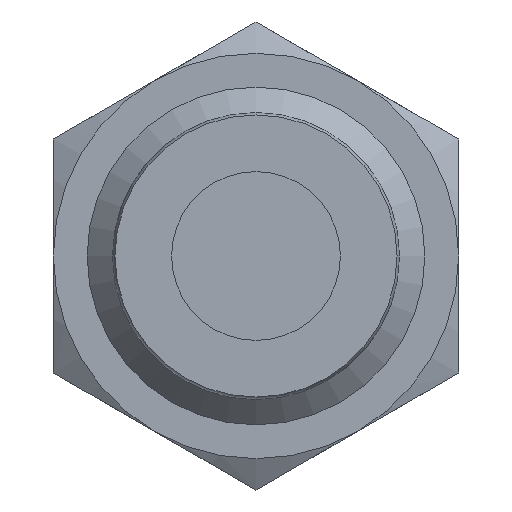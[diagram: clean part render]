
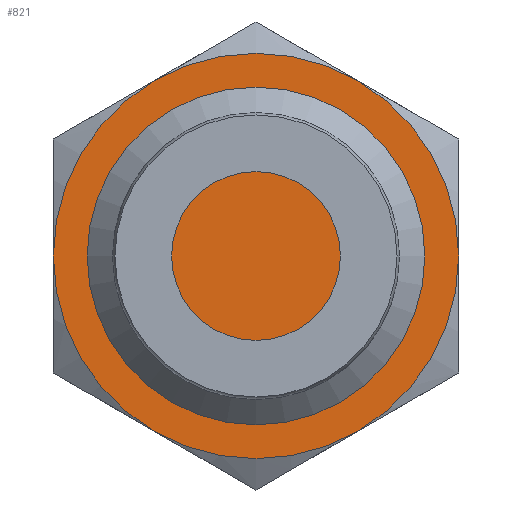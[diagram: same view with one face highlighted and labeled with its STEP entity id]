
A CAD part, front view. The second image highlights one B-rep face of the part: STEP entity #821.
In plain terms, the highlighted planar face has unit normal (0, -1, 0).
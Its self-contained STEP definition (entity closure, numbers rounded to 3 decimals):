
#135=PLANE($,#936);
#219=FACE_OUTER_BOUND($,#303,.T.);
#303=EDGE_LOOP($,(#732,#733,#734,#735,#736,#737));
#344=CIRCLE($,#918,12.);
#345=CIRCLE($,#920,12.);
#346=CIRCLE($,#922,12.);
#347=CIRCLE($,#924,12.);
#348=CIRCLE($,#926,12.);
#349=CIRCLE($,#928,12.);
#409=VERTEX_POINT($,#1430);
#410=VERTEX_POINT($,#1434);
#412=VERTEX_POINT($,#1441);
#414=VERTEX_POINT($,#1451);
#416=VERTEX_POINT($,#1464);
#418=VERTEX_POINT($,#1474);
#504=EDGE_CURVE($,#409,#410,#344,.T.);
#507=EDGE_CURVE($,#412,#409,#345,.T.);
#510=EDGE_CURVE($,#414,#412,#346,.T.);
#512=EDGE_CURVE($,#416,#414,#347,.T.);
#515=EDGE_CURVE($,#418,#416,#348,.T.);
#518=EDGE_CURVE($,#410,#418,#349,.T.);
#732=ORIENTED_EDGE($,*,*,#518,.T.);
#733=ORIENTED_EDGE($,*,*,#515,.T.);
#734=ORIENTED_EDGE($,*,*,#512,.T.);
#735=ORIENTED_EDGE($,*,*,#510,.T.);
#736=ORIENTED_EDGE($,*,*,#507,.T.);
#737=ORIENTED_EDGE($,*,*,#504,.T.);
#821=ADVANCED_FACE($,(#219),#135,.F.);
#918=AXIS2_PLACEMENT_3D($,#1438,#1123,#1124);
#920=AXIS2_PLACEMENT_3D($,#1448,#1127,#1128);
#922=AXIS2_PLACEMENT_3D($,#1458,#1131,#1132);
#924=AXIS2_PLACEMENT_3D($,#1465,#1135,#1136);
#926=AXIS2_PLACEMENT_3D($,#1475,#1139,#1140);
#928=AXIS2_PLACEMENT_3D($,#1484,#1143,#1144);
#936=AXIS2_PLACEMENT_3D($,#1501,#1165,#1166);
#1123=DIRECTION('center_axis',(0.,-1.,0.));
#1124=DIRECTION('ref_axis',(0.,0.,1.));
#1127=DIRECTION('center_axis',(0.,-1.,0.));
#1128=DIRECTION('ref_axis',(0.,0.,1.));
#1131=DIRECTION('center_axis',(0.,-1.,0.));
#1132=DIRECTION('ref_axis',(0.,0.,1.));
#1135=DIRECTION('center_axis',(0.,-1.,0.));
#1136=DIRECTION('ref_axis',(0.,0.,1.));
#1139=DIRECTION('center_axis',(0.,-1.,0.));
#1140=DIRECTION('ref_axis',(0.,0.,1.));
#1143=DIRECTION('center_axis',(0.,-1.,0.));
#1144=DIRECTION('ref_axis',(0.,0.,1.));
#1165=DIRECTION('center_axis',(0.,1.,0.));
#1166=DIRECTION('ref_axis',(0.,0.,1.));
#1430=CARTESIAN_POINT('',(6.,-26.,-10.392));
#1434=CARTESIAN_POINT('',(12.,-26.,0.));
#1438=CARTESIAN_POINT('Origin',(0.,-26.,0.));
#1441=CARTESIAN_POINT('',(-6.,-26.,-10.392));
#1448=CARTESIAN_POINT('Origin',(0.,-26.,0.));
#1451=CARTESIAN_POINT('',(-12.,-26.,0.));
#1458=CARTESIAN_POINT('Origin',(0.,-26.,0.));
#1464=CARTESIAN_POINT('',(-6.,-26.,10.392));
#1465=CARTESIAN_POINT('Origin',(0.,-26.,0.));
#1474=CARTESIAN_POINT('',(6.,-26.,10.392));
#1475=CARTESIAN_POINT('Origin',(0.,-26.,0.));
#1484=CARTESIAN_POINT('Origin',(0.,-26.,0.));
#1501=CARTESIAN_POINT('Origin',(0.,-26.,0.));
